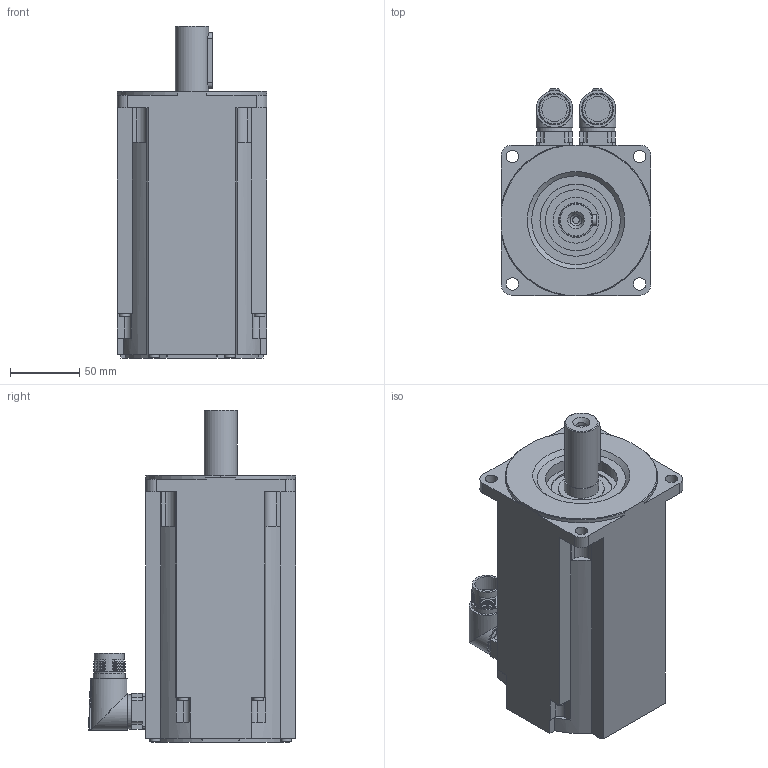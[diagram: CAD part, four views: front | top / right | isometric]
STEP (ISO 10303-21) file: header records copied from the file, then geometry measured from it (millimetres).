
FILE_DESCRIPTION(/* description */ ('STEP AP214'),/* implementation_level */ '2;1');
FILE_NAME(/* name */ 'AKM53X-ACCNR-00',/* time_stamp */ '2023-08-21T06:15:42+02:00',/* author */ ('License CC BY-ND 4.0'),/* organization */ ('CADENAS'),/* preprocessor_version */ 'ST-DEVELOPER v19.3',/* originating_system */ 'PARTsolutions',/* authorisation */ ' ');
FILE_SCHEMA (('AUTOMOTIVE_DESIGN {1 0 10303 214 3 1 1}'));
Length unit declared in the file: millimetre
Products named in the file (4): AKM53X-ACCNR-00; conn-connector; akm_conn_conn; AKM53X-ACCNR-00_part1
Assembly tree (5 placements, depth 2):
  AKM53X-ACCNR-00
    conn-connector  x2
    akm_conn_conn  x2
    AKM53X-ACCNR-00_part1
Bounding box: 108 x 149.34 x 239.5 mm (x, y, z)
Volume: 1982840.1 mm3; surface area: 126784.7 mm2
Topology: 5 solids, 5 shells, 524 faces, 1204 edges, 719 vertices
Faces by surface type: plane 297, cone 144, cylinder 83
Full cylindrical faces by diameter (mm): 4.839 x1, 7.6 x8, 8.4 x1, 9 x4, 18.2 x2, 21.15 x2, 21.6 x2, 23 x2, 24 x1, 24.12 x2, 24.96 x1, 25 x2, 26.45 x2, 33.1 x1, 43.9 x1, 52.001 x1
Entity records: 10686 total; most frequent: CARTESIAN_POINT 1983, DIRECTION 1567, ORIENTED_EDGE 1520, EDGE_CURVE 760, AXIS2_PLACEMENT_3D 577, VERTEX_POINT 482, LINE 413, VECTOR 413
